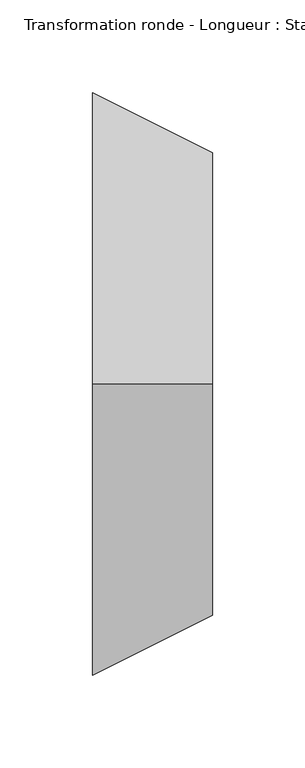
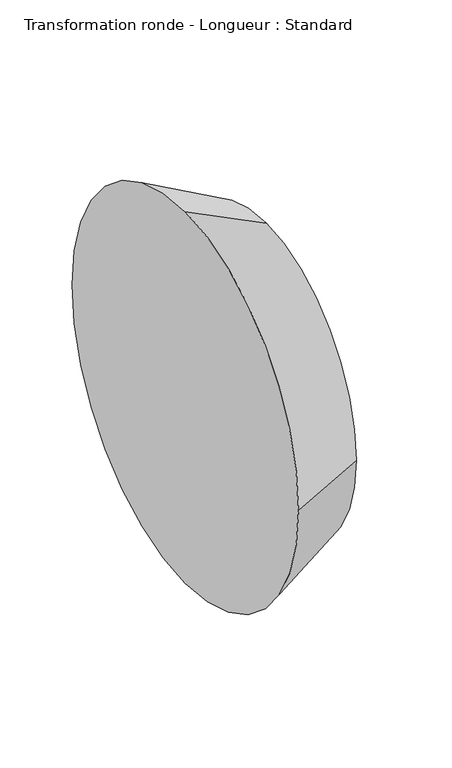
"""IFC4 building model written with IfcOpenShell, lengths in millimetres: duct fitting geometry, Transformation ronde - Longueur : Standard."""

from ifc_helpers import new_model, si_unit, frame, origin, place, context, project, spatial, polyline, circle_curve, source, transform, mapped, element, save
from ifc_brep_helpers import plane_surface, revolved_surface, advanced_brep


def transformation_ronde_longueur_standard_506f6005(model_context):
    return source(origin(), model_context, "Body", "AdvancedBrep", [
        advanced_brep(
        [(65.0, 125.0, 0.0), (65.0, 0.0, 125.0), (65.0, -125.0, 0.0), (65.0, 0.0, -125.0), (0.0, 157.5, 0.0), (0.0, 0.0, -157.5), (0.0, -157.5, 0.0), (0.0, 0.0, 157.5)],
        [
            (0, 1, circle_curve(frame((65.0, 0.0, 0.0), z_axis=(1.0, 0.0, 0.0), x_axis=(0.0, 1.0, 0.0)), 125.0)),
            (1, 2, circle_curve(frame((65.0, 0.0, 0.0), z_axis=(1.0, 0.0, 0.0), x_axis=(0.0, 0.0, 1.0)), 125.0)),
            (2, 3, circle_curve(frame((65.0, 0.0, 0.0), z_axis=(1.0, 0.0, 0.0), x_axis=(0.0, -1.0, 0.0)), 125.0)),
            (3, 0, circle_curve(frame((65.0, 0.0, 0.0), z_axis=(1.0, 0.0, 0.0), x_axis=(0.0, 0.0, -1.0)), 125.0)),
            (4, 5, circle_curve(frame((0.0, 0.0, 0.0), z_axis=(-1.0, 0.0, 0.0), x_axis=(0.0, 0.0, -1.0)), 157.5)),
            (5, 6, circle_curve(frame((0.0, 0.0, 0.0), z_axis=(-1.0, 0.0, 0.0), x_axis=(0.0, -1.0, 0.0)), 157.5)),
            (6, 7, circle_curve(frame((0.0, 0.0, 0.0), z_axis=(-1.0, 0.0, 0.0), x_axis=(0.0, 0.0, 1.0)), 157.5)),
            (7, 4, circle_curve(frame((0.0, 0.0, 0.0), z_axis=(-1.0, 0.0, 0.0), x_axis=(0.0, 1.0, 0.0)), 157.5)),
            (0, 4),
            (7, 1),
            (6, 2),
            (5, 3),
        ],
        [
            plane_surface(frame((65.0, 0.0, 0.0), z_axis=(1.0, 0.0, 0.0), x_axis=(0.0, 0.0, 1.0))),
            plane_surface(frame((0.0, 0.0, 0.0), z_axis=(-1.0, 0.0, 0.0), x_axis=(0.0, 0.0, 1.0))),
            revolved_surface(polyline([(65.0, 125.0, 0.0), (0.0, 157.5, 0.0)]), (315.0, 0.0, 0.0), (-1.0, 0.0, 0.0)),
            revolved_surface(polyline([(65.0, 0.0, 125.0), (0.0, 0.0, 157.5)]), (315.0, 0.0, 0.0), (-1.0, 0.0, 0.0)),
            revolved_surface(polyline([(65.0, -125.0, 0.0), (0.0, -157.5, 0.0)]), (315.0, 0.0, 0.0), (-1.0, 0.0, 0.0)),
            revolved_surface(polyline([(65.0, 0.0, -125.0), (0.0, 0.0, -157.5)]), (315.0, 0.0, 0.0), (-1.0, 0.0, 0.0)),
        ],
        [
            (0, [[1, 2, 3, 4]]),
            (1, [[5, 6, 7, 8]]),
            (2, [[-1, 9, -8, 10]]),
            (3, [[-2, -10, -7, 11]]),
            (4, [[-3, -11, -6, 12]]),
            (5, [[-4, -12, -5, -9]]),
        ],
    ),
    ])


if __name__ == "__main__":
    model = new_model("IFC4")
    model_context = context("Model", 3, world=origin())
    ifc_project = project(units=[si_unit("LENGTHUNIT", "METRE", prefix="MILLI")], contexts=[model_context])
    site = spatial("IfcSite", under=ifc_project)
    building = spatial("IfcBuilding", under=site)
    placement = place(None, origin())
    transformation_ronde_longueur_standard_shape = transformation_ronde_longueur_standard_506f6005(model_context)
    element("IfcDuctFitting", 1, ObjectType="Transformation ronde - Longueur : Standard", at=placement, inside=building, context=model_context, shape_type="MappedRepresentation", body=[
        mapped(transformation_ronde_longueur_standard_shape, transform((0.0, 0.0, 0.0), x_axis=(1.0, 0.0, 0.0), y_axis=(0.0, 1.0, 0.0), z_axis=(0.0, 0.0, 1.0))),
    ])
    save(model, "model.ifc")
